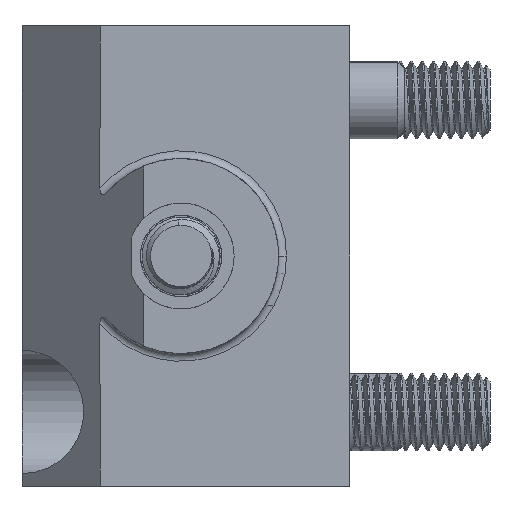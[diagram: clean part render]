
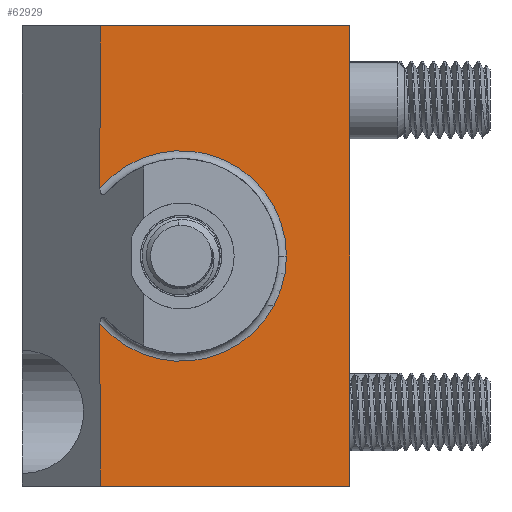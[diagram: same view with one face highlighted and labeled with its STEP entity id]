
A CAD part, left-side view. The second image highlights one B-rep face of the part: STEP entity #62929.
In plain terms, the highlighted planar face has unit normal (-1, 0, 0).
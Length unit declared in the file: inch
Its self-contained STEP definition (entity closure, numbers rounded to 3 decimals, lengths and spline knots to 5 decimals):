
#4960 = VERTEX_POINT ( 'NONE', #53087 ) ;
#6238 = CARTESIAN_POINT ( 'NONE',  ( -0.85, 0.26, -0.7375 ) ) ;
#8164 = DIRECTION ( 'NONE',  ( 0., -1., 0. ) ) ;
#8255 = CARTESIAN_POINT ( 'NONE',  ( -0.85, -0.3375, 0. ) ) ;
#9270 = EDGE_CURVE ( 'NONE', #27001, #81600, #30953, .T. ) ;
#9670 = CARTESIAN_POINT ( 'NONE',  ( -0.85, -0.54, -0.7375 ) ) ;
#11264 = VECTOR ( 'NONE', #13105, 39.37008 ) ;
#12617 = CARTESIAN_POINT ( 'NONE',  ( -0.85, 0., 0. ) ) ;
#12790 = VERTEX_POINT ( 'NONE', #72486 ) ;
#13105 = DIRECTION ( 'NONE',  ( 0., 0., 1. ) ) ;
#13450 = EDGE_LOOP ( 'NONE', ( #59692, #61826, #78247, #24818, #82763, #39015, #20254 ) ) ;
#13623 = AXIS2_PLACEMENT_3D ( 'NONE', #86384, #17749, #65903 ) ;
#14102 = DIRECTION ( 'NONE',  ( 1., 0., 0. ) ) ;
#14180 = FACE_OUTER_BOUND ( 'NONE', #13450, .T. ) ;
#17296 = LINE ( 'NONE', #9670, #70086 ) ;
#17512 = LINE ( 'NONE', #49390, #35860 ) ;
#17749 = DIRECTION ( 'NONE',  ( -1., 0., 0. ) ) ;
#19577 = DIRECTION ( 'NONE',  ( 0., -1., 0. ) ) ;
#20254 = ORIENTED_EDGE ( 'NONE', *, *, #50723, .T. ) ;
#24494 = CIRCLE ( 'NONE', #77329, 0.3375 ) ;
#24710 = CIRCLE ( 'NONE', #32080, 0.3375 ) ;
#24818 = ORIENTED_EDGE ( 'NONE', *, *, #41223, .T. ) ;
#27001 = VERTEX_POINT ( 'NONE', #83598 ) ;
#30953 = LINE ( 'NONE', #67444, #49271 ) ;
#31136 = CARTESIAN_POINT ( 'NONE',  ( -0.85, 0.26, -0.7375 ) ) ;
#32080 = AXIS2_PLACEMENT_3D ( 'NONE', #12617, #60839, #19577 ) ;
#33160 = VERTEX_POINT ( 'NONE', #78480 ) ;
#33338 = CARTESIAN_POINT ( 'NONE',  ( -0.85, 0.51, 0.7375 ) ) ;
#35860 = VECTOR ( 'NONE', #8164, 39.37008 ) ;
#36373 = EDGE_CURVE ( 'NONE', #62252, #33160, #66223, .T. ) ;
#36899 = CARTESIAN_POINT ( 'NONE',  ( -0.85, 0.26, 0.7375 ) ) ;
#39015 = ORIENTED_EDGE ( 'NONE', *, *, #55587, .T. ) ;
#41223 = EDGE_CURVE ( 'NONE', #4960, #81600, #52041, .T. ) ;
#41979 = EDGE_CURVE ( 'NONE', #12790, #4960, #17296, .T. ) ;
#49271 = VECTOR ( 'NONE', #81289, 39.37008 ) ;
#49390 = CARTESIAN_POINT ( 'NONE',  ( -0.85, 0.51, -0.7375 ) ) ;
#50723 = EDGE_CURVE ( 'NONE', #65386, #33160, #24494, .T. ) ;
#50893 = DIRECTION ( 'NONE',  ( 0., 0., 1. ) ) ;
#52041 = LINE ( 'NONE', #33338, #86467 ) ;
#52095 = PLANE ( 'NONE',  #13623 ) ;
#53087 = CARTESIAN_POINT ( 'NONE',  ( -0.85, -0.54, 0.7375 ) ) ;
#55387 = CARTESIAN_POINT ( 'NONE',  ( -0.85, 0., 0. ) ) ;
#55587 = EDGE_CURVE ( 'NONE', #27001, #65386, #24710, .T. ) ;
#59692 = ORIENTED_EDGE ( 'NONE', *, *, #36373, .F. ) ;
#60839 = DIRECTION ( 'NONE',  ( 1., 0., 0. ) ) ;
#61826 = ORIENTED_EDGE ( 'NONE', *, *, #85778, .T. ) ;
#62252 = VERTEX_POINT ( 'NONE', #31136 ) ;
#62302 = DIRECTION ( 'NONE',  ( 0., -1., 0. ) ) ;
#62929 = ADVANCED_FACE ( 'NONE', ( #14180 ), #52095, .T. ) ;
#65386 = VERTEX_POINT ( 'NONE', #8255 ) ;
#65903 = DIRECTION ( 'NONE',  ( 0., -1., 0. ) ) ;
#66223 = LINE ( 'NONE', #6238, #11264 ) ;
#67444 = CARTESIAN_POINT ( 'NONE',  ( -0.85, 0.26, -0.7375 ) ) ;
#68217 = DIRECTION ( 'NONE',  ( 0., 1., 0. ) ) ;
#70086 = VECTOR ( 'NONE', #50893, 39.37008 ) ;
#72486 = CARTESIAN_POINT ( 'NONE',  ( -0.85, -0.54, -0.7375 ) ) ;
#77329 = AXIS2_PLACEMENT_3D ( 'NONE', #55387, #14102, #62302 ) ;
#78247 = ORIENTED_EDGE ( 'NONE', *, *, #41979, .T. ) ;
#78480 = CARTESIAN_POINT ( 'NONE',  ( -0.85, 0.26, -0.21519 ) ) ;
#81289 = DIRECTION ( 'NONE',  ( 0., 0., 1. ) ) ;
#81600 = VERTEX_POINT ( 'NONE', #36899 ) ;
#82763 = ORIENTED_EDGE ( 'NONE', *, *, #9270, .F. ) ;
#83598 = CARTESIAN_POINT ( 'NONE',  ( -0.85, 0.26, 0.21519 ) ) ;
#85778 = EDGE_CURVE ( 'NONE', #62252, #12790, #17512, .T. ) ;
#86384 = CARTESIAN_POINT ( 'NONE',  ( -0.85, -0.54, -0.7375 ) ) ;
#86467 = VECTOR ( 'NONE', #68217, 39.37008 ) ;
